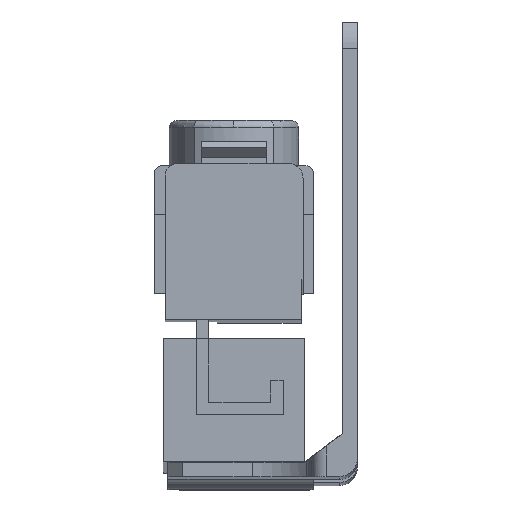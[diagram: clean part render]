
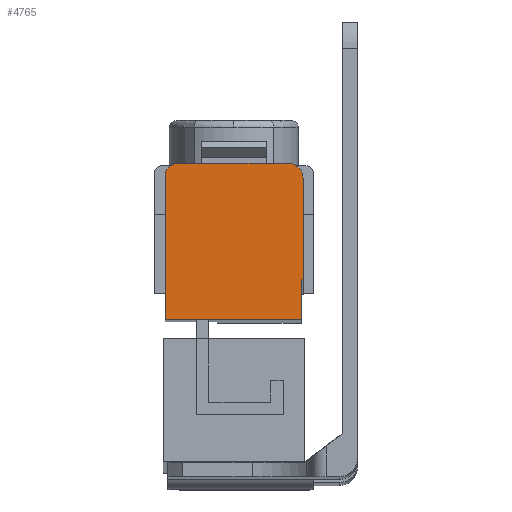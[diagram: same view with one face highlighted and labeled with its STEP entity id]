
A CAD part, front view. The second image highlights one B-rep face of the part: STEP entity #4765.
In plain terms, the highlighted planar face has unit normal (0, -1, 0.007).
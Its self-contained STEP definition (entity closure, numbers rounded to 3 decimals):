
#562 = CARTESIAN_POINT ( 'NONE',  ( -24.75, -25.132, -4.528 ) ) ;
#563 = DIRECTION ( 'NONE',  ( -1., 0., 0. ) ) ;
#572 = CARTESIAN_POINT ( 'NONE',  ( -7.5, -25.146, -6.578 ) ) ;
#573 = DIRECTION ( 'NONE',  ( 0., 0.007, 1. ) ) ;
#576 = CARTESIAN_POINT ( 'NONE',  ( -9.55, -25.146, -6.578 ) ) ;
#577 = DIRECTION ( 'NONE',  ( 0., -1., 0.007 ) ) ;
#578 = DIRECTION ( 'NONE',  ( 0., 0.007, 1. ) ) ;
#581 = CARTESIAN_POINT ( 'NONE',  ( -24.75, -25.144, -6.278 ) ) ;
#582 = DIRECTION ( 'NONE',  ( 0., -1., 0.007 ) ) ;
#583 = DIRECTION ( 'NONE',  ( 0., -0.007, -1. ) ) ;
#590 = CARTESIAN_POINT ( 'NONE',  ( -26.5, -25.144, -6.278 ) ) ;
#591 = DIRECTION ( 'NONE',  ( 0., -0.007, -1. ) ) ;
#592 = CARTESIAN_POINT ( 'NONE',  ( -26.5, -25.244, -20.528 ) ) ;
#593 = DIRECTION ( 'NONE',  ( 1., 0., 0. ) ) ;
#598 = CARTESIAN_POINT ( 'NONE',  ( -7.75, -25.282, -26.028 ) ) ;
#599 = DIRECTION ( 'NONE',  ( 1., 0., 0. ) ) ;
#600 = CARTESIAN_POINT ( 'NONE',  ( -7.75, -25.282, -26.028 ) ) ;
#601 = DIRECTION ( 'NONE',  ( 0., 0.007, 1. ) ) ;
#963 = PLANE ( 'NONE',  #3594 ) ;
#964 = CARTESIAN_POINT ( 'NONE',  ( -24.75, -25.144, -6.278 ) ) ;
#965 = DIRECTION ( 'NONE',  ( 0., -1., 0.007 ) ) ;
#966 = DIRECTION ( 'NONE',  ( 0., -0.007, -1. ) ) ;
#1666 = EDGE_CURVE ( 'NONE', #1924, #1926, #5089, .T. ) ;
#1671 = EDGE_CURVE ( 'NONE', #1841, #1893, #5099, .T. ) ;
#1673 = EDGE_CURVE ( 'NONE', #1893, #1924, #5104, .T. ) ;
#1675 = EDGE_CURVE ( 'NONE', #1926, #1888, #5107, .T. ) ;
#1679 = EDGE_CURVE ( 'NONE', #1888, #1842, #5113, .T. ) ;
#1680 = EDGE_CURVE ( 'NONE', #1866, #1841, #5115, .T. ) ;
#1683 = EDGE_CURVE ( 'NONE', #1842, #1845, #5121, .T. ) ;
#1684 = EDGE_CURVE ( 'NONE', #1845, #1866, #5123, .T. ) ;
#1841 = VERTEX_POINT ( 'NONE', #2332 ) ;
#1842 = VERTEX_POINT ( 'NONE', #2333 ) ;
#1845 = VERTEX_POINT ( 'NONE', #2336 ) ;
#1866 = VERTEX_POINT ( 'NONE', #2357 ) ;
#1888 = VERTEX_POINT ( 'NONE', #2379 ) ;
#1893 = VERTEX_POINT ( 'NONE', #2384 ) ;
#1924 = VERTEX_POINT ( 'NONE', #2415 ) ;
#1926 = VERTEX_POINT ( 'NONE', #2417 ) ;
#2332 = CARTESIAN_POINT ( 'NONE',  ( -7.5, -25.244, -20.528 ) ) ;
#2333 = CARTESIAN_POINT ( 'NONE',  ( -26.5, -25.282, -26.028 ) ) ;
#2336 = CARTESIAN_POINT ( 'NONE',  ( -7.75, -25.282, -26.028 ) ) ;
#2357 = CARTESIAN_POINT ( 'NONE',  ( -7.75, -25.244, -20.528 ) ) ;
#2379 = CARTESIAN_POINT ( 'NONE',  ( -26.5, -25.144, -6.278 ) ) ;
#2384 = CARTESIAN_POINT ( 'NONE',  ( -7.5, -25.146, -6.578 ) ) ;
#2415 = CARTESIAN_POINT ( 'NONE',  ( -9.55, -25.132, -4.528 ) ) ;
#2417 = CARTESIAN_POINT ( 'NONE',  ( -24.75, -25.132, -4.528 ) ) ;
#3101 = FACE_OUTER_BOUND ( 'NONE', #3708, .T. ) ;
#3453 = AXIS2_PLACEMENT_3D ( 'NONE', #576, #577, #578 ) ;
#3454 = AXIS2_PLACEMENT_3D ( 'NONE', #581, #582, #583 ) ;
#3594 = AXIS2_PLACEMENT_3D ( 'NONE', #964, #965, #966 ) ;
#3708 = EDGE_LOOP ( 'NONE', ( #4089, #4088, #4087, #4086, #4085, #4084, #4083, #4082 ) ) ;
#4082 = ORIENTED_EDGE ( 'NONE', *, *, #1680, .T. ) ;
#4083 = ORIENTED_EDGE ( 'NONE', *, *, #1684, .T. ) ;
#4084 = ORIENTED_EDGE ( 'NONE', *, *, #1683, .T. ) ;
#4085 = ORIENTED_EDGE ( 'NONE', *, *, #1679, .T. ) ;
#4086 = ORIENTED_EDGE ( 'NONE', *, *, #1675, .T. ) ;
#4087 = ORIENTED_EDGE ( 'NONE', *, *, #1666, .T. ) ;
#4088 = ORIENTED_EDGE ( 'NONE', *, *, #1673, .T. ) ;
#4089 = ORIENTED_EDGE ( 'NONE', *, *, #1671, .T. ) ;
#4765 = ADVANCED_FACE ( 'NONE', ( #3101 ), #963, .T. ) ;
#5089 = LINE ( 'NONE', #562, #5090 ) ;
#5090 = VECTOR ( 'NONE', #563, 1000. ) ;
#5099 = LINE ( 'NONE', #572, #5100 ) ;
#5100 = VECTOR ( 'NONE', #573, 1000. ) ;
#5104 = CIRCLE ( 'NONE', #3453, 2.05 ) ;
#5107 = CIRCLE ( 'NONE', #3454, 1.75 ) ;
#5113 = LINE ( 'NONE', #590, #5114 ) ;
#5114 = VECTOR ( 'NONE', #591, 1000. ) ;
#5115 = LINE ( 'NONE', #592, #5116 ) ;
#5116 = VECTOR ( 'NONE', #593, 1000. ) ;
#5121 = LINE ( 'NONE', #598, #5122 ) ;
#5122 = VECTOR ( 'NONE', #599, 1000. ) ;
#5123 = LINE ( 'NONE', #600, #5124 ) ;
#5124 = VECTOR ( 'NONE', #601, 1000. ) ;
